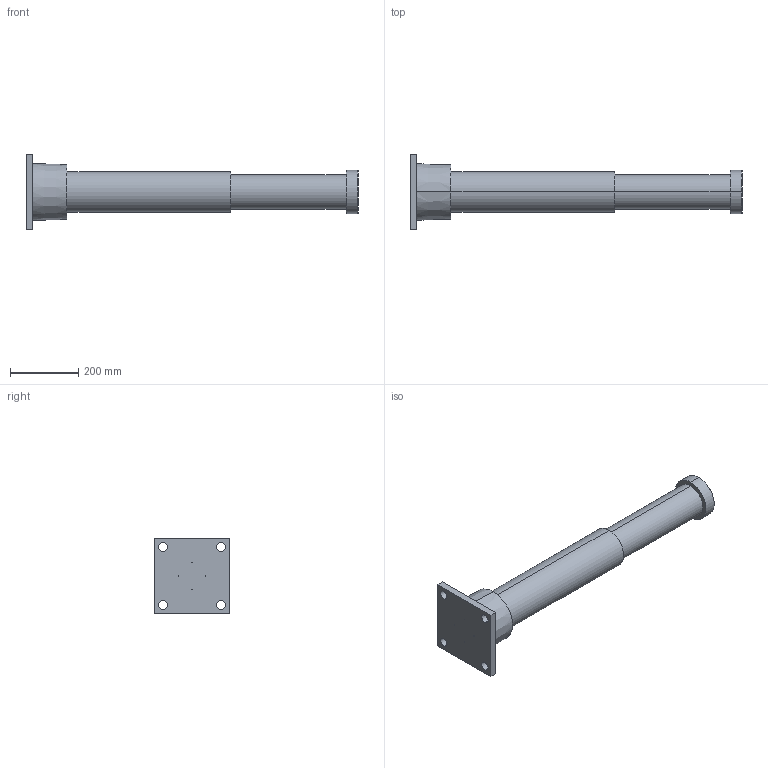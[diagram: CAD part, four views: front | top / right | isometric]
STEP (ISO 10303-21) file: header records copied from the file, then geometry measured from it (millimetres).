
FILE_DESCRIPTION (( 'STEP AP214' ), '1' );
FILE_NAME ('LDH120X300FR.STEP', '2019-01-21T05:00:43', ( 'user' ), ( 'Microsoft' ), 'SwSTEP 2.0', 'SolidWorks 2016', '' );
FILE_SCHEMA (( 'AUTOMOTIVE_DESIGN' ));
Length unit declared in the file: millimetre
Products named in the file (1): LDH120X300FR
Bounding box: 973 x 220 x 220 mm (x, y, z)
Volume: 11549775.3 mm3; surface area: 477249 mm2
Topology: 1 solids, 1 shells, 40 faces, 88 edges, 58 vertices
Faces by surface type: cylinder 22, plane 14, cone 4
Entity records: 1176 total; most frequent: DIRECTION 220, CARTESIAN_POINT 187, ORIENTED_EDGE 176, AXIS2_PLACEMENT_3D 91, EDGE_CURVE 88, VERTEX_POINT 58, EDGE_LOOP 56, CIRCLE 50
